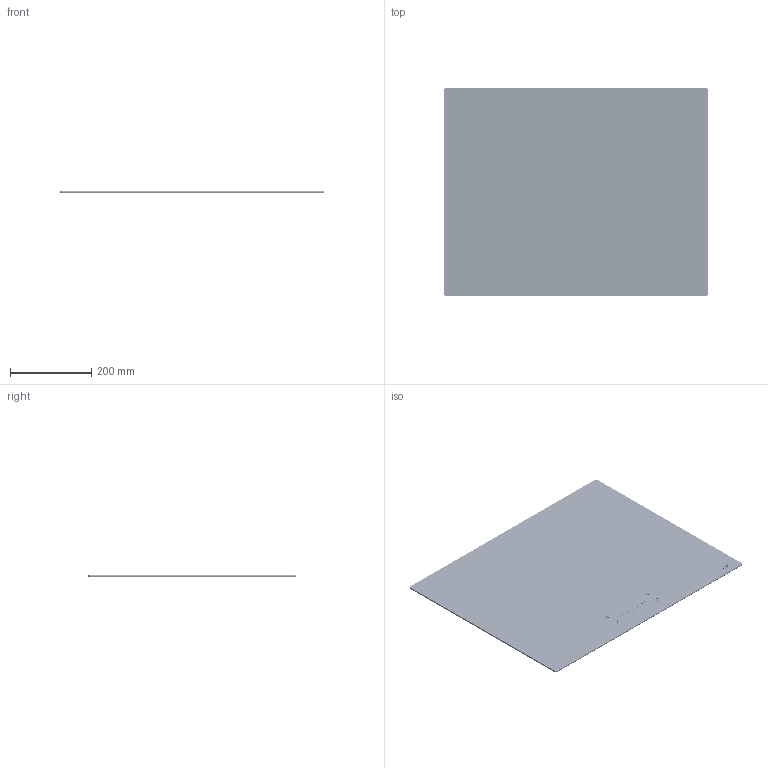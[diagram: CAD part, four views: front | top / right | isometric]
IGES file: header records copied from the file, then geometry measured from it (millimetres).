
Global section: file name: F:\_CONVERSIONE_CAD_2024_2025\_2024\03_3D kits new\Induction Hobs\108.0704.935 3D001_Induction hob_Maris_K-Link\3D001_Induction hob_Maris_K-Link.igs; native system: Rhinoceros ( Feb 13 2024 ); preprocessor: Trout Lake IGES 012 Feb 13 2024; date: 240319.152655; units: millimetre
Bounding box: 649.99 x 509.99 x 4.6 mm (x, y, z)
Surface area: 677836.2 mm2 (no closed solid volume)
Topology: 0 solids, 0 shells, 22514 faces, 90977 edges, 90976 vertices
Faces by surface type: bspline 22514
